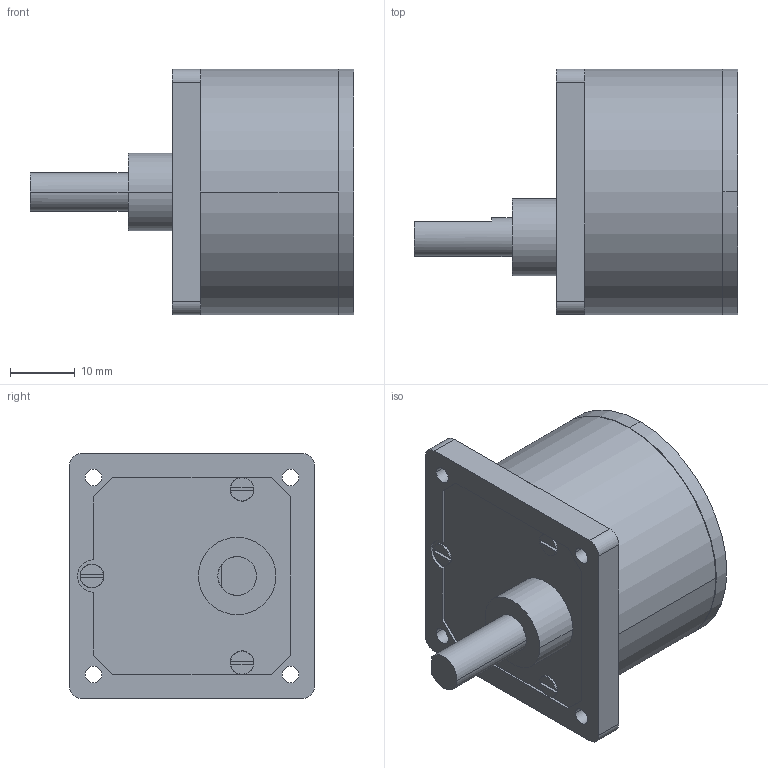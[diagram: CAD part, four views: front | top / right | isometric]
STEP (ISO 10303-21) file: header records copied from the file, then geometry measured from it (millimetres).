
FILE_DESCRIPTION((''),'2;1');
FILE_NAME('GS38','2016-10-06T',('mmagpetk'),(''),'CREO PARAMETRIC BY PTC INC, 2016050','CREO PARAMETRIC BY PTC INC, 2016050','');
FILE_SCHEMA(('CONFIG_CONTROL_DESIGN'));
Length unit declared in the file: millimetre
Products named in the file (1): GS38
Bounding box: 50.1 x 38 x 38 mm (x, y, z)
Volume: 33994.8 mm3; surface area: 7116.8 mm2
Topology: 1 solids, 1 shells, 75 faces, 194 edges, 126 vertices
Faces by surface type: plane 40, cylinder 27, cone 8
Entity records: 3219 total; most frequent: CARTESIAN_POINT 455, DIRECTION 412, ORIENTED_EDGE 388, PRESENTATION_STYLE_ASSIGNMENT 216, STYLED_ITEM 195, CURVE_STYLE 194, EDGE_CURVE 194, AXIS2_PLACEMENT_3D 155
